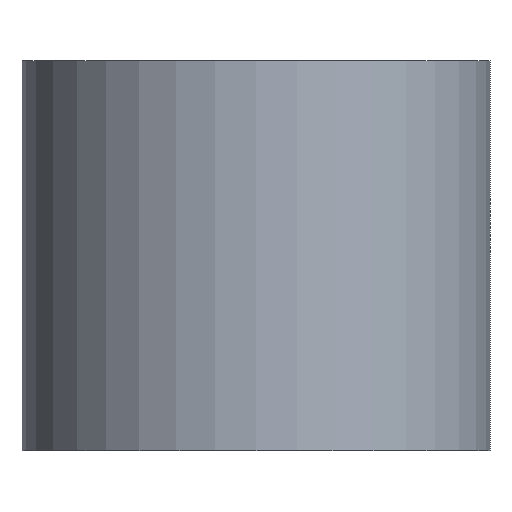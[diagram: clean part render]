
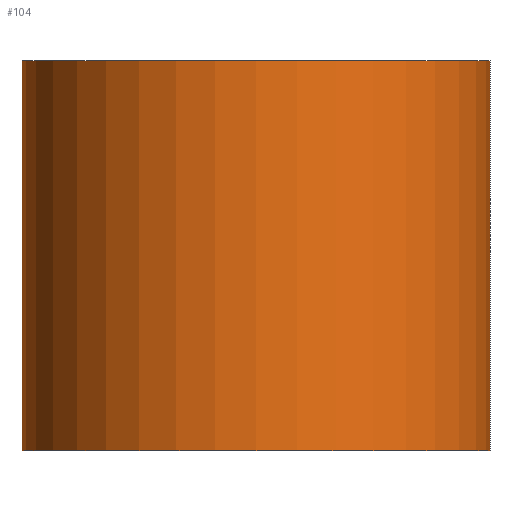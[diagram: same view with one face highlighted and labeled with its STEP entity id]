
A CAD part, left-side view. The second image highlights one B-rep face of the part: STEP entity #104.
In plain terms, the highlighted cylindrical face has radius 12 mm (diameter 24 mm), a partial arc.
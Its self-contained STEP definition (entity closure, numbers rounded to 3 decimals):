
#104=ADVANCED_FACE('',(#114),#110,.T.);
#110=CYLINDRICAL_SURFACE('',#191,12.);
#114=FACE_OUTER_BOUND('',#118,.T.);
#118=EDGE_LOOP('',(#137,#138,#139,#140));
#127=CIRCLE('',#189,12.);
#128=CIRCLE('',#190,12.);
#137=ORIENTED_EDGE('',*,*,#165,.F.);
#138=ORIENTED_EDGE('',*,*,#169,.T.);
#139=ORIENTED_EDGE('',*,*,#167,.T.);
#140=ORIENTED_EDGE('',*,*,#170,.F.);
#157=VERTEX_POINT('',#236);
#158=VERTEX_POINT('',#237);
#159=VERTEX_POINT('',#239);
#160=VERTEX_POINT('',#241);
#165=EDGE_CURVE('',#157,#158,#177,.T.);
#167=EDGE_CURVE('',#160,#159,#178,.T.);
#169=EDGE_CURVE('',#157,#160,#127,.T.);
#170=EDGE_CURVE('',#158,#159,#128,.T.);
#177=LINE('',#235,#181);
#178=LINE('',#240,#182);
#181=VECTOR('',#202,1.);
#182=VECTOR('',#205,1.);
#189=AXIS2_PLACEMENT_3D('',#244,#210,#211);
#190=AXIS2_PLACEMENT_3D('',#245,#212,#213);
#191=AXIS2_PLACEMENT_3D('',#246,#214,#215);
#202=DIRECTION('',(0.,0.,1.));
#205=DIRECTION('',(0.,0.,1.));
#210=DIRECTION('',(0.,0.,1.));
#211=DIRECTION('',(1.,0.,0.));
#212=DIRECTION('',(0.,0.,1.));
#213=DIRECTION('',(1.,0.,0.));
#214=DIRECTION('',(0.,0.,1.));
#215=DIRECTION('',(-1.,0.,0.));
#235=CARTESIAN_POINT('',(0.,12.,0.));
#236=CARTESIAN_POINT('',(0.,12.,-20.));
#237=CARTESIAN_POINT('',(0.,12.,0.));
#239=CARTESIAN_POINT('',(0.,-12.,0.));
#240=CARTESIAN_POINT('',(0.,-12.,0.));
#241=CARTESIAN_POINT('',(0.,-12.,-20.));
#244=CARTESIAN_POINT('',(0.,0.,-20.));
#245=CARTESIAN_POINT('',(0.,0.,0.));
#246=CARTESIAN_POINT('',(0.,0.,-20.));
